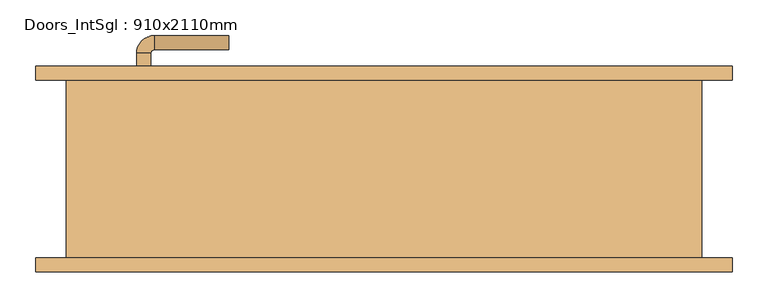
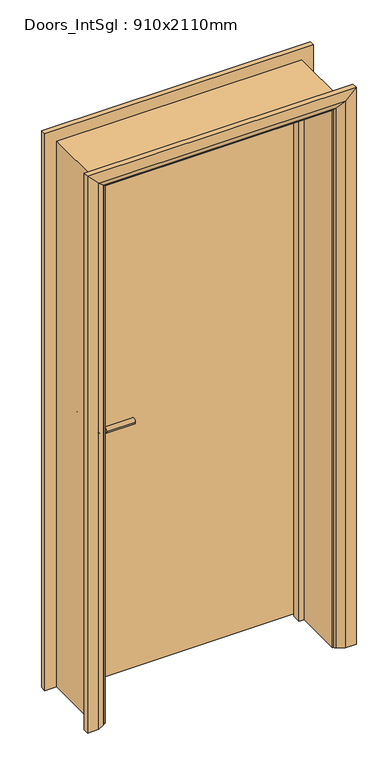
"""IFC4 building model written with IfcOpenShell, lengths in millimetres: door geometry, Doors_IntSgl : 910x2110mm."""

from ifc_helpers import new_model, si_unit, point, frame, frame_2d, origin, place, context, project, spatial, polyline, circle_curve, ellipse_curve, trimmed, segment, composite_curve, outline, extrude, faceted_brep, source, transform, mapped, element, save
from ifc_brep_helpers import plane_surface, cylinder_surface, revolved_surface, advanced_brep


def doors_intsgl_910x2110mm_8387d1bd(model_context):
    return source(origin(), model_context, "Body", "SolidModel", [
        advanced_brep(
        [(-348.0, 79.0, 1000.0), (-328.0, 79.0, 1000.0), (-328.0, 49.0, 1000.0), (-348.0, 49.0, 1000.0), (-323.0, 44.0, 1000.0), (-323.0, 24.0, 1000.0), (-218.0, 24.0, 1000.0), (-218.0, 44.0, 1000.0)],
        [
            (0, 1, circle_curve(frame((-338.0, 79.0, 1000.0), z_axis=(0.0, 1.0, 0.0), x_axis=(1.0, 0.0, 0.0)), 10.0)),
            (1, 0, circle_curve(frame((-338.0, 79.0, 1000.0), z_axis=(0.0, 1.0, 0.0), x_axis=(1.0, 0.0, 0.0)), 10.0)),
            (1, 2),
            (2, 3, circle_curve(frame((-338.0, 49.0, 1000.0), z_axis=(0.0, 1.0, 0.0), x_axis=(1.0, 0.0, 0.0)), 10.0)),
            (3, 0),
            (3, 2, circle_curve(frame((-338.0, 49.0, 1000.0), z_axis=(0.0, 1.0, 0.0), x_axis=(1.0, 0.0, 0.0)), 10.0)),
            (4, 5, circle_curve(frame((-323.0, 34.0, 1000.0), z_axis=(-1.0, 0.0, 0.0), x_axis=(0.0, 1.0, 0.0)), 10.0)),
            (5, 3, circle_curve(frame((-323.0, 49.0, 1000.0), z_axis=(0.0, 0.0, -1.0), x_axis=(-1.0, 0.0, 0.0)), 25.0)),
            (2, 4, circle_curve(frame((-323.0, 49.0, 1000.0), z_axis=(0.0, 0.0, 1.0), x_axis=(-1.0, 0.0, 0.0)), 5.0)),
            (5, 4, circle_curve(frame((-323.0, 34.0, 1000.0), z_axis=(-1.0, 0.0, 0.0), x_axis=(0.0, 1.0, 0.0)), 10.0)),
            (6, 7, circle_curve(frame((-218.0, 34.0, 1000.0), z_axis=(1.0, 0.0, 0.0), x_axis=(0.0, 1.0, 0.0)), 10.0)),
            (7, 6, circle_curve(frame((-218.0, 34.0, 1000.0), z_axis=(1.0, 0.0, 0.0), x_axis=(0.0, 1.0, 0.0)), 10.0)),
            (4, 7),
            (6, 5),
        ],
        [
            plane_surface(frame((-338.0, 79.0, 1000.0), z_axis=(0.0, 1.0, 0.0), x_axis=(0.0, 0.0, 1.0))),
            cylinder_surface(frame((-338.0, 79.0, 1000.0), z_axis=(0.0, 1.0, 0.0), x_axis=(1.0, 0.0, 0.0)), 10.0),
            revolved_surface(trimmed(ellipse_curve(frame((-338.0, 49.0, 1000.0), z_axis=(0.0, -1.0, 0.0), x_axis=(1.0, 0.0, 0.0)), 10.0, 10.0), [point((-348.0, 49.0, 1000.0))], [point((-328.0, 49.0, 1000.0))], True, "CARTESIAN"), (-323.0, 49.0, 1000.0), (0.0, 0.0, -1.0)),
            revolved_surface(trimmed(ellipse_curve(frame((-338.0, 49.0, 1000.0), z_axis=(0.0, -1.0, 0.0), x_axis=(1.0, 0.0, 0.0)), 10.0, 10.0), [point((-328.0, 49.0, 1000.0))], [point((-348.0, 49.0, 1000.0))], True, "CARTESIAN"), (-323.0, 49.0, 1000.0), (0.0, 0.0, -1.0)),
            plane_surface(frame((-218.0, 34.0, 1000.0), z_axis=(1.0, 0.0, 0.0), x_axis=(0.0, 0.0, 1.0))),
            cylinder_surface(frame((-323.0, 34.0, 1000.0), z_axis=(-1.0, 0.0, 0.0), x_axis=(0.0, 1.0, 0.0)), 10.0),
        ],
        [
            (0, [[1, 2]]),
            (1, [[3, 4, 5, -2]]),
            (1, [[-5, 6, -3, -1]]),
            (2, [[7, 8, -4, 9]]),
            (3, [[10, -9, -6, -8]]),
            (4, [[11, 12]]),
            (5, [[13, -11, 14, -7]]),
            (5, [[-14, -12, -13, -10]]),
        ],
    ),
        extrude(outline(composite_curve([segment(trimmed(circle_curve(frame_2d((1000.0, -340.5)), 30.0), [point((1000.0, -370.5))], [point((1000.0, -310.5))], False, "CARTESIAN"), True, "CONTINUOUS"), segment(trimmed(circle_curve(frame_2d((1000.0, -340.5)), 30.0), [point((1000.0, -310.5))], [point((1000.0, -370.5))], False, "CARTESIAN"), True, "CONTINUOUS")], self_intersect=False)), frame((0.0, 79.0, 0.0), z_axis=(0.0, 1.0, 0.0), x_axis=(0.0, 0.0, 1.0)), (0.0, 0.0, 1.0), 8.0),
        advanced_brep(
        [(-348.0, 133.0, 1000.0), (-328.0, 133.0, 1000.0), (-348.0, 163.0, 1000.0), (-328.0, 163.0, 1000.0), (-323.0, 168.0, 1000.0), (-323.0, 188.0, 1000.0), (-218.0, 188.0, 1000.0), (-218.0, 168.0, 1000.0)],
        [
            (0, 1, circle_curve(frame((-338.0, 133.0, 1000.0), z_axis=(0.0, -1.0, 0.0), x_axis=(1.0, 0.0, 0.0)), 10.0)),
            (1, 0, circle_curve(frame((-338.0, 133.0, 1000.0), z_axis=(0.0, -1.0, 0.0), x_axis=(1.0, 0.0, 0.0)), 10.0)),
            (0, 2),
            (2, 3, circle_curve(frame((-338.0, 163.0, 1000.0), z_axis=(0.0, -1.0, 0.0), x_axis=(1.0, 0.0, 0.0)), 10.0)),
            (3, 1),
            (3, 2, circle_curve(frame((-338.0, 163.0, 1000.0), z_axis=(0.0, -1.0, 0.0), x_axis=(1.0, 0.0, 0.0)), 10.0)),
            (4, 3, circle_curve(frame((-323.0, 163.0, 1000.0), z_axis=(0.0, 0.0, 1.0), x_axis=(-1.0, 0.0, 0.0)), 5.0)),
            (2, 5, circle_curve(frame((-323.0, 163.0, 1000.0), z_axis=(0.0, 0.0, -1.0), x_axis=(-1.0, 0.0, 0.0)), 25.0)),
            (5, 4, circle_curve(frame((-323.0, 178.0, 1000.0), z_axis=(-1.0, 0.0, 0.0), x_axis=(0.0, -1.0, 0.0)), 10.0)),
            (4, 5, circle_curve(frame((-323.0, 178.0, 1000.0), z_axis=(-1.0, 0.0, 0.0), x_axis=(0.0, -1.0, 0.0)), 10.0)),
            (6, 7, circle_curve(frame((-218.0, 178.0, 1000.0), z_axis=(1.0, 0.0, 0.0), x_axis=(0.0, -1.0, 0.0)), 10.0)),
            (7, 6, circle_curve(frame((-218.0, 178.0, 1000.0), z_axis=(1.0, 0.0, 0.0), x_axis=(0.0, -1.0, 0.0)), 10.0)),
            (5, 6),
            (7, 4),
        ],
        [
            plane_surface(frame((-338.0, 133.0, 1000.0), z_axis=(0.0, -1.0, 0.0), x_axis=(0.0, 0.0, 1.0))),
            cylinder_surface(frame((-338.0, 133.0, 1000.0), z_axis=(0.0, -1.0, 0.0), x_axis=(1.0, 0.0, 0.0)), 10.0),
            revolved_surface(trimmed(ellipse_curve(frame((-338.0, 163.0, 1000.0), z_axis=(0.0, -1.0, 0.0), x_axis=(1.0, 0.0, 0.0)), 10.0, 10.0), [point((-348.0, 163.0, 1000.0))], [point((-328.0, 163.0, 1000.0))], True, "CARTESIAN"), (-323.0, 163.0, 1000.0), (0.0, 0.0, -1.0)),
            revolved_surface(trimmed(ellipse_curve(frame((-338.0, 163.0, 1000.0), z_axis=(0.0, -1.0, 0.0), x_axis=(1.0, 0.0, 0.0)), 10.0, 10.0), [point((-328.0, 163.0, 1000.0))], [point((-348.0, 163.0, 1000.0))], True, "CARTESIAN"), (-323.0, 163.0, 1000.0), (0.0, 0.0, -1.0)),
            plane_surface(frame((-218.0, 178.0, 1000.0), z_axis=(1.0, 0.0, 0.0), x_axis=(0.0, 0.0, 1.0))),
            cylinder_surface(frame((-323.0, 178.0, 1000.0), z_axis=(-1.0, 0.0, 0.0), x_axis=(0.0, -1.0, 0.0)), 10.0),
        ],
        [
            (0, [[1, 2]]),
            (1, [[-1, 3, 4, 5]]),
            (1, [[-2, -5, 6, -3]]),
            (2, [[7, -4, 8, 9]]),
            (3, [[-8, -6, -7, 10]]),
            (4, [[11, 12]]),
            (5, [[-9, 13, -12, 14]]),
            (5, [[-10, -14, -11, -13]]),
        ],
    ),
        extrude(outline(composite_curve([segment(trimmed(circle_curve(frame_2d((1000.0, -340.5)), 30.0), [point((1000.0, -370.5))], [point((1000.0, -310.5))], False, "CARTESIAN"), True, "CONTINUOUS"), segment(trimmed(circle_curve(frame_2d((1000.0, -340.5)), 30.0), [point((1000.0, -310.5))], [point((1000.0, -370.5))], False, "CARTESIAN"), True, "CONTINUOUS")], self_intersect=False)), frame((0.0, 125.0, 0.0), z_axis=(0.0, 1.0, 0.0), x_axis=(0.0, 0.0, 1.0)), (0.0, 0.0, 1.0), 8.0),
        extrude(outline(polyline([(413.0, 87.0), (-413.0, 87.0), (-413.0, 125.0), (413.0, 125.0), (413.0, 87.0)])), frame((0.0, 0.0, 8.0), z_axis=(0.0, 0.0, 1.0), x_axis=(1.0, 0.0, 0.0)), (0.0, 0.0, 1.0), 2060.0),
        advanced_brep(
        [(490.0, 145.0, 0.0), (490.0, 125.0, 0.0), (420.0, 125.0, 0.0), (424.0, 131.0, 0.0), (450.0, 145.0, 0.0), (490.0, 145.0, 2145.0), (490.0, 125.0, 2145.0), (-490.0, 125.0, 2145.0), (-490.0, 125.0, 0.0), (-420.0, 125.0, 0.0), (-420.0, 125.0, 2075.0), (420.0, 125.0, 2075.0), (424.0, 131.0, 2079.0), (450.0, 145.0, 2105.0), (-450.0, 145.0, 2105.0), (-450.0, 145.0, 0.0), (-490.0, 145.0, 0.0), (-490.0, 145.0, 2145.0), (-424.0, 131.0, 2079.0), (-424.0, 131.0, 0.0)],
        [
            (0, 1),
            (1, 2),
            (2, 3, circle_curve(frame((428.0, 124.0, 0.0), z_axis=(0.0, 0.0, -1.0), x_axis=(1.0, 0.0, 0.0)), 8.0622577)),
            (3, 4),
            (4, 0),
            (0, 5),
            (5, 6),
            (6, 1),
            (6, 7),
            (7, 8),
            (8, 9),
            (9, 10),
            (10, 11),
            (11, 2),
            (11, 12, ellipse_curve(frame((428.0, 124.0, 2083.0), z_axis=(0.7071067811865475, 0.0, -0.7071067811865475), x_axis=(-0.7071067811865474, 0.0, -0.7071067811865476)), 11.4017543, 8.0622577)),
            (12, 3),
            (12, 13),
            (13, 4),
            (13, 14),
            (14, 15),
            (15, 16),
            (16, 17),
            (17, 5),
            (17, 7),
            (10, 18, ellipse_curve(frame((-428.0, 124.0, 2083.0), z_axis=(0.7071067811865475, 0.0, 0.7071067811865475), x_axis=(0.7071067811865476, 0.0, -0.7071067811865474)), 11.4017543, 8.0622577)),
            (18, 12),
            (18, 14),
            (15, 19),
            (19, 9, circle_curve(frame((-428.0, 124.0, 0.0), z_axis=(0.0, 0.0, -1.0), x_axis=(-1.0, 0.0, 0.0)), 8.0622577)),
            (8, 16),
            (19, 18),
        ],
        [
            plane_surface(frame((420.0, 125.0, 0.0), z_axis=(0.0, 0.0, -1.0), x_axis=(0.0, -1.0, 0.0))),
            plane_surface(frame((490.0, 145.0, 0.0), z_axis=(1.0, 0.0, 0.0), x_axis=(0.0, 0.0, 1.0))),
            plane_surface(frame((490.0, 125.0, 0.0), z_axis=(0.0, -1.0, 0.0), x_axis=(0.0, 0.0, 1.0))),
            cylinder_surface(frame((428.0, 124.0, 0.0), z_axis=(0.0, 0.0, -1.0), x_axis=(1.0, 0.0, 0.0)), 8.0622577),
            plane_surface(frame((424.0, 131.0, 0.0), z_axis=(-0.4740998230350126, 0.880471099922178, 0.0), x_axis=(0.0, 0.0, 1.0))),
            plane_surface(frame((450.0, 145.0, 0.0), z_axis=(0.0, 1.0, 0.0), x_axis=(0.0, 0.0, 1.0))),
            plane_surface(frame((490.0, 145.0, 2145.0), z_axis=(0.0, 0.0, 1.0), x_axis=(-1.0, 0.0, 0.0))),
            cylinder_surface(frame((420.0, 124.0, 2083.0), z_axis=(1.0, 0.0, 0.0), x_axis=(0.0, 0.0, 1.0)), 8.0622577),
            plane_surface(frame((424.0, 131.0, 2079.0), z_axis=(0.0, 0.8804710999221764, -0.4740998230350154), x_axis=(-1.0, 0.0, 0.0))),
            plane_surface(frame((-420.0, 125.0, 0.0), z_axis=(0.0, 0.0, -1.0), x_axis=(0.0, -1.0, 0.0))),
            plane_surface(frame((-490.0, 145.0, 2145.0), z_axis=(-1.0, 0.0, 0.0), x_axis=(0.0, 0.0, -1.0))),
            cylinder_surface(frame((-428.0, 124.0, 2075.0), z_axis=(0.0, 0.0, 1.0), x_axis=(-1.0, 0.0, 0.0)), 8.0622577),
            plane_surface(frame((-424.0, 131.0, 2079.0), z_axis=(0.47409982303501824, 0.8804710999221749, 0.0), x_axis=(0.0, 0.0, -1.0))),
        ],
        [
            (0, [[1, 2, 3, 4, 5]]),
            (1, [[-1, 6, 7, 8]]),
            (2, [[-2, -8, 9, 10, 11, 12, 13, 14]]),
            (3, [[-3, -14, 15, 16]]),
            (4, [[-4, -16, 17, 18]]),
            (5, [[-5, -18, 19, 20, 21, 22, 23, -6]]),
            (6, [[-7, -23, 24, -9]]),
            (7, [[-15, -13, 25, 26]]),
            (8, [[-17, -26, 27, -19]]),
            (9, [[-21, 28, 29, -11, 30]]),
            (10, [[-24, -22, -30, -10]]),
            (11, [[-25, -12, -29, 31]]),
            (12, [[-27, -31, -28, -20]]),
        ],
    ),
        extrude(outline(polyline([(0.0, -415.0), (0.0, -396.0), (2051.0, -396.0), (2051.0, 396.0), (0.0, 396.0), (0.0, 415.0), (2070.0, 415.0), (2070.0, -415.0), (0.0, -415.0)])), frame((0.0, 53.0, 0.0), z_axis=(0.0, 1.0, 0.0), x_axis=(0.0, 0.0, 1.0)), (0.0, 0.0, 1.0), 32.0),
        advanced_brep(
        [(-490.0, -145.0, 0.0), (-490.0, -125.0, 0.0), (-420.0, -125.0, 0.0), (-424.0, -131.0, 0.0), (-450.0, -145.0, 0.0), (-490.0, -145.0, 2145.0), (-490.0, -125.0, 2145.0), (-420.0, -125.0, 2075.0), (-424.0, -131.0, 2079.0), (-450.0, -145.0, 2105.0), (490.0, -145.0, 2145.0), (490.0, -125.0, 2145.0), (420.0, -125.0, 2075.0), (424.0, -131.0, 2079.0), (450.0, -145.0, 2105.0), (490.0, -145.0, 0.0), (450.0, -145.0, 0.0), (424.0, -131.0, 0.0), (420.0, -125.0, 0.0), (490.0, -125.0, 0.0)],
        [
            (0, 1),
            (1, 2),
            (2, 3, circle_curve(frame((-428.0, -124.0, 0.0), z_axis=(0.0, 0.0, -1.0), x_axis=(-1.0, 0.0, 0.0)), 8.0622577)),
            (3, 4),
            (4, 0),
            (0, 5),
            (5, 6),
            (6, 1),
            (6, 7),
            (7, 2),
            (7, 8, ellipse_curve(frame((-428.0, -124.0, 2083.0), z_axis=(-0.7071067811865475, 0.0, -0.7071067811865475), x_axis=(0.7071067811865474, 0.0, -0.7071067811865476)), 11.4017543, 8.0622577)),
            (8, 3),
            (8, 9),
            (9, 4),
            (9, 5),
            (5, 10),
            (10, 11),
            (11, 6),
            (11, 12),
            (12, 7),
            (12, 13, ellipse_curve(frame((428.0, -124.0, 2083.0), z_axis=(-0.7071067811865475, 0.0, 0.7071067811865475), x_axis=(-0.7071067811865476, 0.0, -0.7071067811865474)), 11.4017543, 8.0622577)),
            (13, 8),
            (13, 14),
            (14, 9),
            (14, 10),
            (15, 16),
            (16, 17),
            (17, 18, circle_curve(frame((428.0, -124.0, 0.0), z_axis=(0.0, 0.0, -1.0), x_axis=(1.0, 0.0, 0.0)), 8.0622577)),
            (18, 19),
            (19, 15),
            (10, 15),
            (19, 11),
            (18, 12),
            (17, 13),
            (16, 14),
        ],
        [
            plane_surface(frame((-420.0, -197.8010989, 0.0), z_axis=(0.0, 0.0, -1.0), x_axis=(1.0, 0.0, 0.0))),
            plane_surface(frame((-490.0, -145.0, 0.0), z_axis=(-1.0, 0.0, 0.0), x_axis=(0.0, 0.0, 1.0))),
            plane_surface(frame((-490.0, -125.0, 0.0), z_axis=(0.0, 1.0, 0.0), x_axis=(0.0, 0.0, 1.0))),
            cylinder_surface(frame((-428.0, -124.0, 0.0), z_axis=(0.0, 0.0, -1.0), x_axis=(-1.0, 0.0, 0.0)), 8.0622577),
            plane_surface(frame((-424.0, -131.0, 0.0), z_axis=(0.4740998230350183, -0.8804710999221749, 0.0), x_axis=(0.0, 0.0, 1.0))),
            plane_surface(frame((-450.0, -145.0, 0.0), z_axis=(0.0, -1.0, 0.0), x_axis=(0.0, 0.0, 1.0))),
            plane_surface(frame((-490.0, -145.0, 2145.0), z_axis=(0.0, 0.0, 1.0), x_axis=(1.0, 0.0, 0.0))),
            plane_surface(frame((-490.0, -125.0, 2145.0), z_axis=(0.0, 1.0, 0.0), x_axis=(1.0, 0.0, 0.0))),
            cylinder_surface(frame((-420.0, -124.0, 2083.0), z_axis=(-1.0, 0.0, 0.0), x_axis=(0.0, 0.0, 1.0)), 8.0622577),
            plane_surface(frame((-424.0, -131.0, 2079.0), z_axis=(0.0, -0.8804710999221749, -0.4740998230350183), x_axis=(1.0, 0.0, 0.0))),
            plane_surface(frame((-450.0, -145.0, 2105.0), z_axis=(0.0, -1.0, 0.0), x_axis=(1.0, 0.0, 0.0))),
            plane_surface(frame((420.0, -197.8010989, 0.0), z_axis=(0.0, 0.0, -1.0), x_axis=(-1.0, 0.0, 0.0))),
            plane_surface(frame((490.0, -145.0, 2145.0), z_axis=(1.0, 0.0, 0.0), x_axis=(0.0, 0.0, -1.0))),
            plane_surface(frame((490.0, -125.0, 2145.0), z_axis=(0.0, 1.0, 0.0), x_axis=(0.0, 0.0, -1.0))),
            cylinder_surface(frame((428.0, -124.0, 2075.0), z_axis=(0.0, 0.0, 1.0), x_axis=(1.0, 0.0, 0.0)), 8.0622577),
            plane_surface(frame((424.0, -131.0, 2079.0), z_axis=(-0.4740998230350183, -0.8804710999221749, 0.0), x_axis=(0.0, 0.0, -1.0))),
            plane_surface(frame((450.0, -145.0, 2105.0), z_axis=(0.0, -1.0, 0.0), x_axis=(0.0, 0.0, -1.0))),
        ],
        [
            (0, [[1, 2, 3, 4, 5]]),
            (1, [[-1, 6, 7, 8]]),
            (2, [[-2, -8, 9, 10]]),
            (3, [[-3, -10, 11, 12]]),
            (4, [[-4, -12, 13, 14]]),
            (5, [[-5, -14, 15, -6]]),
            (6, [[-7, 16, 17, 18]]),
            (7, [[-9, -18, 19, 20]]),
            (8, [[-11, -20, 21, 22]]),
            (9, [[-13, -22, 23, 24]]),
            (10, [[-15, -24, 25, -16]]),
            (11, [[26, 27, 28, 29, 30]]),
            (12, [[-17, 31, -30, 32]]),
            (13, [[-19, -32, -29, 33]]),
            (14, [[-21, -33, -28, 34]]),
            (15, [[-23, -34, -27, 35]]),
            (16, [[-25, -35, -26, -31]]),
        ],
    ),
        faceted_brep([(-415.0, 125.0, 0.0), (-415.0, -125.0, 0.0), (-447.0, -125.0, 0.0), (-447.0, 125.0, 0.0), (-415.0, 125.0, 2070.0), (-415.0, -125.0, 2070.0), (-447.0, -125.0, 2102.0), (-447.0, 125.0, 2102.0), (415.0, 125.0, 2070.0), (415.0, -125.0, 2070.0), (447.0, -125.0, 2102.0), (447.0, 125.0, 2102.0), (415.0, 125.0, 0.0), (447.0, 125.0, 0.0), (447.0, -125.0, 0.0), (415.0, -125.0, 0.0)], [[[0, 1, 2, 3]], [[1, 0, 4, 5]], [[2, 1, 5, 6]], [[3, 2, 6, 7]], [[0, 3, 7, 4]], [[5, 4, 8, 9]], [[6, 5, 9, 10]], [[7, 6, 10, 11]], [[4, 7, 11, 8]], [[12, 13, 14, 15]], [[9, 8, 12, 15]], [[10, 9, 15, 14]], [[11, 10, 14, 13]], [[8, 11, 13, 12]]]),
    ])


if __name__ == "__main__":
    model = new_model("IFC4")
    model_context = context("Model", 3, world=origin())
    ifc_project = project(units=[si_unit("LENGTHUNIT", "METRE", prefix="MILLI")], contexts=[model_context])
    site = spatial("IfcSite", under=ifc_project)
    building = spatial("IfcBuilding", under=site)
    placement = place(None, origin())
    doors_intsgl_910x2110mm_shape = doors_intsgl_910x2110mm_8387d1bd(model_context)
    element("IfcDoor", 1, ObjectType="Doors_IntSgl : 910x2110mm", at=placement, inside=building, context=model_context, shape_type="MappedRepresentation", body=[
        mapped(doors_intsgl_910x2110mm_shape, transform((0.0, 0.0, 0.0), x_axis=(1.0, 0.0, 0.0), y_axis=(0.0, 1.0, 0.0), z_axis=(0.0, 0.0, 1.0))),
    ])
    save(model, "model.ifc")
